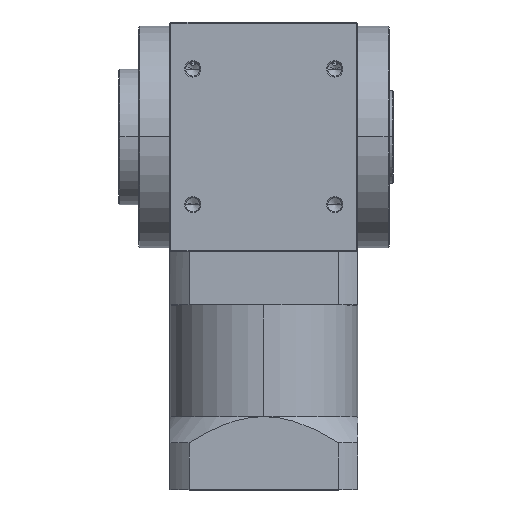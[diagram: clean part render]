
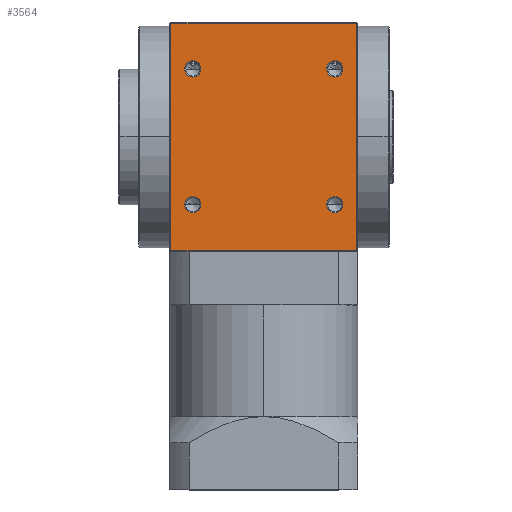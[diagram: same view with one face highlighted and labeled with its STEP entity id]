
A CAD part, top view. The second image highlights one B-rep face of the part: STEP entity #3564.
In plain terms, the highlighted planar face has unit normal (0, 0, 1).
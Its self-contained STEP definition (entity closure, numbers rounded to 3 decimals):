
#76 = DIRECTION ( 'NONE',  ( -1., 0., 0. ) ) ;
#122 = AXIS2_PLACEMENT_3D ( 'NONE', #6707, #7958, #2730 ) ;
#128 = AXIS2_PLACEMENT_3D ( 'NONE', #6429, #6348, #3688 ) ;
#151 = DIRECTION ( 'NONE',  ( 0., 1., 0. ) ) ;
#156 = ORIENTED_EDGE ( 'NONE', *, *, #7109, .T. ) ;
#199 = DIRECTION ( 'NONE',  ( 0., 1., 0. ) ) ;
#256 = CARTESIAN_POINT ( 'NONE',  ( 45., -54.5, 55. ) ) ;
#540 = ORIENTED_EDGE ( 'NONE', *, *, #6706, .T. ) ;
#546 = DIRECTION ( 'NONE',  ( 0., 1., 0. ) ) ;
#641 = VERTEX_POINT ( 'NONE', #3149 ) ;
#728 = VERTEX_POINT ( 'NONE', #7903 ) ;
#748 = CARTESIAN_POINT ( 'NONE',  ( -30.1, 32.5, 55. ) ) ;
#778 = DIRECTION ( 'NONE',  ( 0., 0., -1. ) ) ;
#988 = CIRCLE ( 'NONE', #3586, 3.9 ) ;
#1226 = EDGE_CURVE ( 'NONE', #641, #2198, #6405, .T. ) ;
#1315 = CARTESIAN_POINT ( 'NONE',  ( -37.9, -32.5, 55. ) ) ;
#1346 = EDGE_CURVE ( 'NONE', #3737, #1579, #7875, .T. ) ;
#1395 = FACE_BOUND ( 'NONE', #7281, .T. ) ;
#1480 = VERTEX_POINT ( 'NONE', #3871 ) ;
#1496 = CARTESIAN_POINT ( 'NONE',  ( 45., 55., 55. ) ) ;
#1539 = EDGE_CURVE ( 'NONE', #5486, #7090, #4561, .T. ) ;
#1579 = VERTEX_POINT ( 'NONE', #748 ) ;
#1716 = LINE ( 'NONE', #6766, #8494 ) ;
#1761 = DIRECTION ( 'NONE',  ( 0., 0., -1. ) ) ;
#1816 = CARTESIAN_POINT ( 'NONE',  ( 34., 32.5, 55. ) ) ;
#1827 = CARTESIAN_POINT ( 'NONE',  ( 45., 54.5, 55. ) ) ;
#1932 = EDGE_CURVE ( 'NONE', #3226, #728, #7459, .T. ) ;
#1978 = ORIENTED_EDGE ( 'NONE', *, *, #1226, .T. ) ;
#2084 = DIRECTION ( 'NONE',  ( 0., 1., 0. ) ) ;
#2090 = EDGE_CURVE ( 'NONE', #2198, #1480, #4442, .T. ) ;
#2167 = CIRCLE ( 'NONE', #2332, 3.9 ) ;
#2198 = VERTEX_POINT ( 'NONE', #2918 ) ;
#2251 = ORIENTED_EDGE ( 'NONE', *, *, #7913, .T. ) ;
#2258 = AXIS2_PLACEMENT_3D ( 'NONE', #7942, #778, #151 ) ;
#2332 = AXIS2_PLACEMENT_3D ( 'NONE', #4030, #6050, #2084 ) ;
#2458 = CARTESIAN_POINT ( 'NONE',  ( 44.5, -54.5, 55. ) ) ;
#2514 = EDGE_CURVE ( 'NONE', #728, #3226, #2167, .T. ) ;
#2730 = DIRECTION ( 'NONE',  ( 0., 1., 0. ) ) ;
#2823 = VECTOR ( 'NONE', #8190, 1000. ) ;
#2838 = FACE_BOUND ( 'NONE', #2999, .T. ) ;
#2918 = CARTESIAN_POINT ( 'NONE',  ( -44.5, 54.5, 55. ) ) ;
#2949 = ORIENTED_EDGE ( 'NONE', *, *, #1346, .T. ) ;
#2981 = VERTEX_POINT ( 'NONE', #2458 ) ;
#2999 = EDGE_LOOP ( 'NONE', ( #7022, #2949 ) ) ;
#3119 = CARTESIAN_POINT ( 'NONE',  ( 37.9, 32.5, 55. ) ) ;
#3149 = CARTESIAN_POINT ( 'NONE',  ( 44.5, 54.5, 55. ) ) ;
#3226 = VERTEX_POINT ( 'NONE', #7356 ) ;
#3399 = ORIENTED_EDGE ( 'NONE', *, *, #8328, .T. ) ;
#3564 = ADVANCED_FACE ( 'NONE', ( #6673, #1395, #5112, #2838, #6586 ), #7491, .F. ) ;
#3586 = AXIS2_PLACEMENT_3D ( 'NONE', #1816, #1761, #546 ) ;
#3683 = AXIS2_PLACEMENT_3D ( 'NONE', #6753, #8064, #6125 ) ;
#3688 = DIRECTION ( 'NONE',  ( 0., 1., 0. ) ) ;
#3737 = VERTEX_POINT ( 'NONE', #7686 ) ;
#3800 = DIRECTION ( 'NONE',  ( 0., 0., -1. ) ) ;
#3821 = EDGE_LOOP ( 'NONE', ( #3399, #7521, #1978, #4976 ) ) ;
#3871 = CARTESIAN_POINT ( 'NONE',  ( -44.5, -54.5, 55. ) ) ;
#3883 = CARTESIAN_POINT ( 'NONE',  ( -30.1, -32.5, 55. ) ) ;
#4030 = CARTESIAN_POINT ( 'NONE',  ( 34., -32.5, 55. ) ) ;
#4101 = VECTOR ( 'NONE', #76, 1000. ) ;
#4106 = ORIENTED_EDGE ( 'NONE', *, *, #1932, .T. ) ;
#4442 = LINE ( 'NONE', #6765, #6013 ) ;
#4485 = CARTESIAN_POINT ( 'NONE',  ( -34., -32.5, 55. ) ) ;
#4528 = VERTEX_POINT ( 'NONE', #6554 ) ;
#4561 = CIRCLE ( 'NONE', #2258, 3.9 ) ;
#4754 = DIRECTION ( 'NONE',  ( 0., -1., 0. ) ) ;
#4887 = DIRECTION ( 'NONE',  ( 0., 0., -1. ) ) ;
#4970 = AXIS2_PLACEMENT_3D ( 'NONE', #4485, #3800, #5822 ) ;
#4976 = ORIENTED_EDGE ( 'NONE', *, *, #2090, .T. ) ;
#5112 = FACE_BOUND ( 'NONE', #7938, .T. ) ;
#5125 = VERTEX_POINT ( 'NONE', #3119 ) ;
#5294 = AXIS2_PLACEMENT_3D ( 'NONE', #6737, #5429, #199 ) ;
#5429 = DIRECTION ( 'NONE',  ( 0., 0., -1. ) ) ;
#5486 = VERTEX_POINT ( 'NONE', #1315 ) ;
#5594 = DIRECTION ( 'NONE',  ( 0., 1., 0. ) ) ;
#5721 = ORIENTED_EDGE ( 'NONE', *, *, #2514, .T. ) ;
#5822 = DIRECTION ( 'NONE',  ( 0., 1., 0. ) ) ;
#5966 = EDGE_LOOP ( 'NONE', ( #156, #6794 ) ) ;
#6013 = VECTOR ( 'NONE', #4754, 1000. ) ;
#6050 = DIRECTION ( 'NONE',  ( 0., 0., -1. ) ) ;
#6052 = LINE ( 'NONE', #256, #2823 ) ;
#6125 = DIRECTION ( 'NONE',  ( 0., 1., 0. ) ) ;
#6283 = CIRCLE ( 'NONE', #4970, 3.9 ) ;
#6348 = DIRECTION ( 'NONE',  ( 0., 0., -1. ) ) ;
#6405 = LINE ( 'NONE', #1827, #4101 ) ;
#6429 = CARTESIAN_POINT ( 'NONE',  ( -34., 32.5, 55. ) ) ;
#6492 = CIRCLE ( 'NONE', #128, 3.9 ) ;
#6554 = CARTESIAN_POINT ( 'NONE',  ( 30.1, 32.5, 55. ) ) ;
#6586 = FACE_OUTER_BOUND ( 'NONE', #3821, .T. ) ;
#6673 = FACE_BOUND ( 'NONE', #5966, .T. ) ;
#6706 = EDGE_CURVE ( 'NONE', #4528, #5125, #7817, .T. ) ;
#6707 = CARTESIAN_POINT ( 'NONE',  ( 34., -32.5, 55. ) ) ;
#6737 = CARTESIAN_POINT ( 'NONE',  ( 34., 32.5, 55. ) ) ;
#6753 = CARTESIAN_POINT ( 'NONE',  ( -34., 32.5, 55. ) ) ;
#6765 = CARTESIAN_POINT ( 'NONE',  ( -44.5, 55., 55. ) ) ;
#6766 = CARTESIAN_POINT ( 'NONE',  ( 44.5, 55., 55. ) ) ;
#6774 = DIRECTION ( 'NONE',  ( 0., 1., 0. ) ) ;
#6794 = ORIENTED_EDGE ( 'NONE', *, *, #1539, .T. ) ;
#7022 = ORIENTED_EDGE ( 'NONE', *, *, #7046, .T. ) ;
#7046 = EDGE_CURVE ( 'NONE', #1579, #3737, #6492, .T. ) ;
#7090 = VERTEX_POINT ( 'NONE', #3883 ) ;
#7109 = EDGE_CURVE ( 'NONE', #7090, #5486, #6283, .T. ) ;
#7281 = EDGE_LOOP ( 'NONE', ( #4106, #5721 ) ) ;
#7356 = CARTESIAN_POINT ( 'NONE',  ( 37.9, -32.5, 55. ) ) ;
#7459 = CIRCLE ( 'NONE', #122, 3.9 ) ;
#7491 = PLANE ( 'NONE',  #8126 ) ;
#7521 = ORIENTED_EDGE ( 'NONE', *, *, #8301, .T. ) ;
#7686 = CARTESIAN_POINT ( 'NONE',  ( -37.9, 32.5, 55. ) ) ;
#7817 = CIRCLE ( 'NONE', #5294, 3.9 ) ;
#7875 = CIRCLE ( 'NONE', #3683, 3.9 ) ;
#7903 = CARTESIAN_POINT ( 'NONE',  ( 30.1, -32.5, 55. ) ) ;
#7913 = EDGE_CURVE ( 'NONE', #5125, #4528, #988, .T. ) ;
#7938 = EDGE_LOOP ( 'NONE', ( #2251, #540 ) ) ;
#7942 = CARTESIAN_POINT ( 'NONE',  ( -34., -32.5, 55. ) ) ;
#7958 = DIRECTION ( 'NONE',  ( 0., 0., -1. ) ) ;
#8064 = DIRECTION ( 'NONE',  ( 0., 0., -1. ) ) ;
#8126 = AXIS2_PLACEMENT_3D ( 'NONE', #1496, #4887, #6774 ) ;
#8190 = DIRECTION ( 'NONE',  ( 1., 0., 0. ) ) ;
#8301 = EDGE_CURVE ( 'NONE', #2981, #641, #1716, .T. ) ;
#8328 = EDGE_CURVE ( 'NONE', #1480, #2981, #6052, .T. ) ;
#8494 = VECTOR ( 'NONE', #5594, 1000. ) ;
